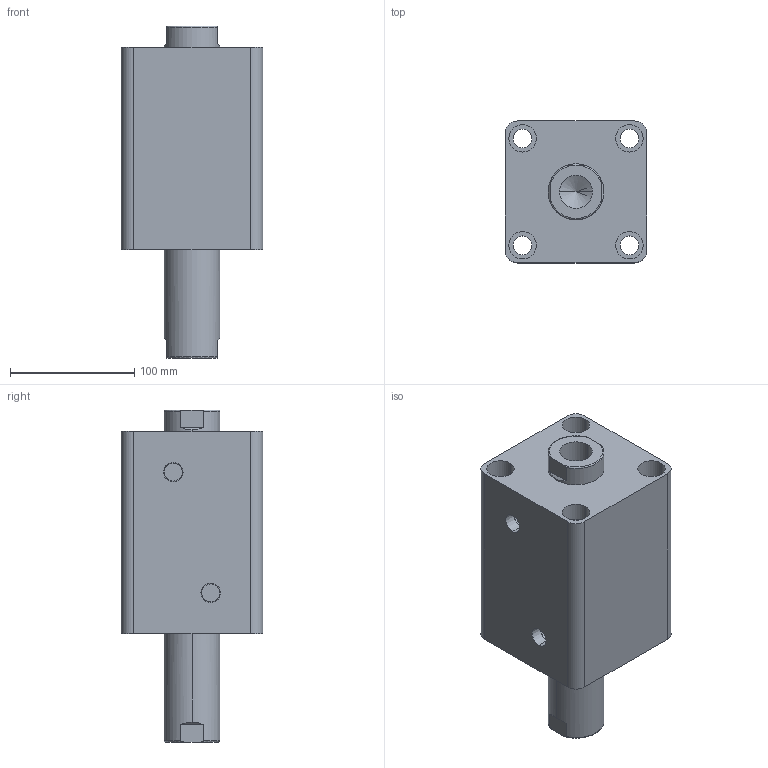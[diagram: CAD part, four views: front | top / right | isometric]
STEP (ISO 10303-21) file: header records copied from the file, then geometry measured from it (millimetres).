
FILE_DESCRIPTION (( 'STEP AP203' ), '1' );
FILE_NAME ('HTB-SW80-70N.STEP', '2019-10-07T10:25:19', ( '微软用户' ), ( '微软中国' ), 'SwSTEP 2.0', 'SolidWorks 2012', '' );
FILE_SCHEMA (( 'CONFIG_CONTROL_DESIGN' ));
Length unit declared in the file: millimetre
Products named in the file (3): HTB-SW80-70N; HTB-SW80-70N活塞杆; HTB-SW80-70掛极
Assembly tree (2 placements, depth 2):
  HTB-SW80-70N
    HTB-SW80-70掛极
    HTB-SW80-70N活塞杆
Bounding box: 114 x 114 x 267 mm (x, y, z)
Volume: 1853538.5 mm3; surface area: 223622.3 mm2
Topology: 2 solids, 2 shells, 100 faces, 228 edges, 146 vertices
Faces by surface type: cylinder 48, plane 32, torus 12, cone 8
Entity records: 3237 total; most frequent: CARTESIAN_POINT 595, DIRECTION 542, ORIENTED_EDGE 448, AXIS2_PLACEMENT_3D 229, EDGE_CURVE 224, VERTEX_POINT 146, EDGE_LOOP 128, CIRCLE 124
